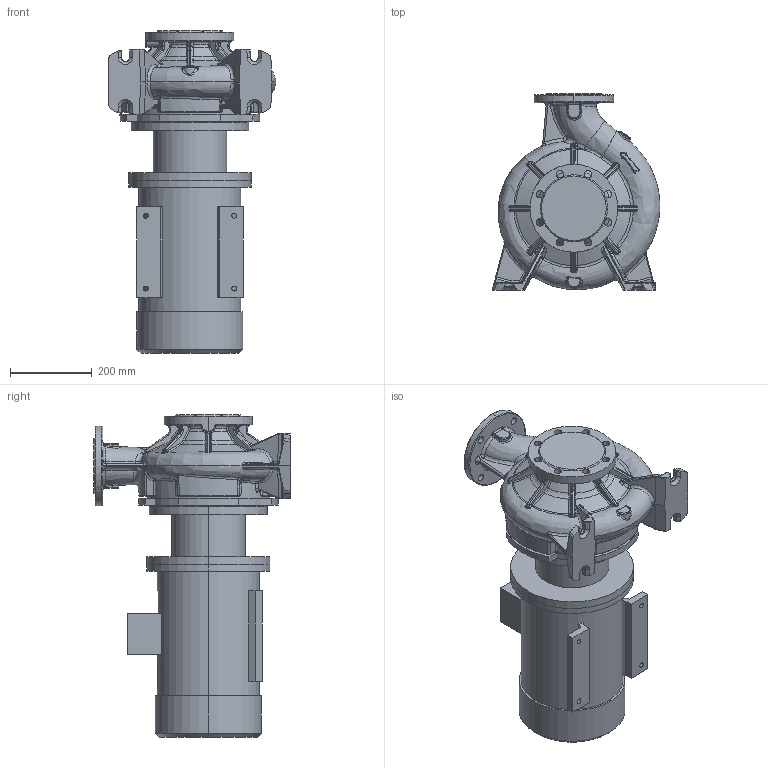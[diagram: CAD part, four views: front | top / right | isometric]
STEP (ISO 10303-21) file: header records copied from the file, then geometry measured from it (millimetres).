
FILE_DESCRIPTION (( 'STEP AP203' ), '1' );
FILE_NAME ('KRM100-80-250-2-45.STEP', '2026-08-12T09:07:10', ( '' ), ( '' ), 'SwSTEP 2.0', 'SolidWorks 2016', '' );
FILE_SCHEMA (( 'CONFIG_CONTROL_DESIGN' ));
Products named in the file (1): KRM100-80-250-2-45
Bounding box: 410.07 x 480 x 787.8 mm (x, y, z)
Volume: 47145163.6 mm3; surface area: 1809305.3 mm2
Topology: 8 solids, 8 shells, 1182 faces, 2861 edges, 1667 vertices
Faces by surface type: bspline 481, cylinder 301, plane 192, torus 112, cone 57, sphere 39
Entity records: 72827 total; most frequent: CARTESIAN_POINT 48984, ORIENTED_EDGE 5642, DIRECTION 4204, EDGE_CURVE 2821, AXIS2_PLACEMENT_3D 1801, VERTEX_POINT 1667, EDGE_LOOP 1226, FACE_OUTER_BOUND 1182
